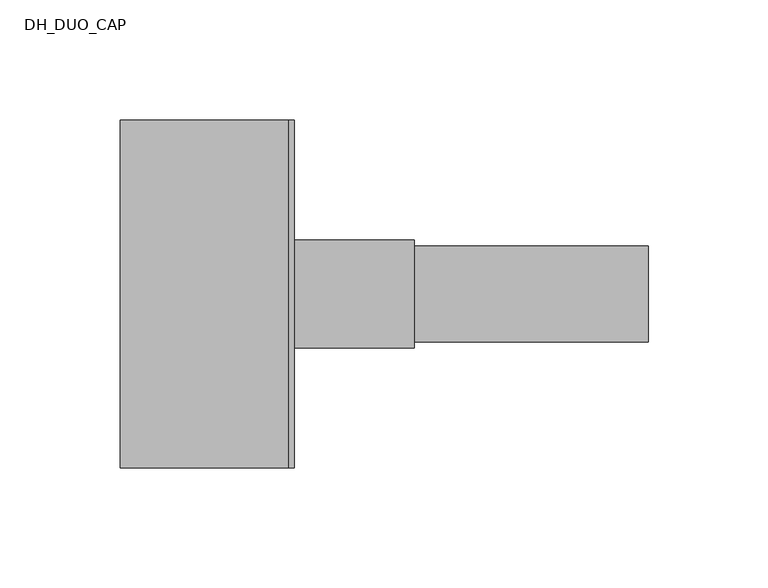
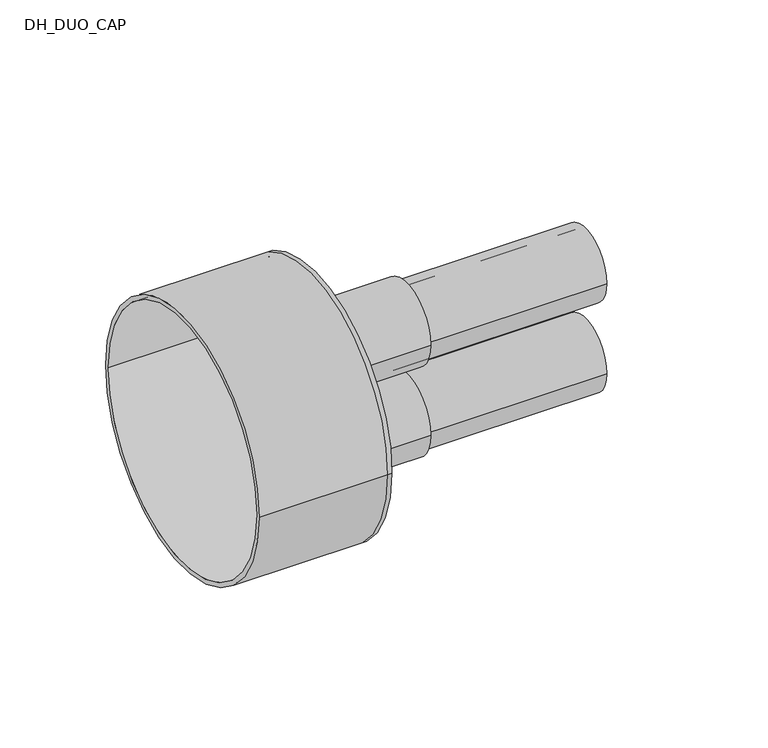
"""IFC4 building model written with IfcOpenShell, lengths in millimetres: pipe fitting geometry, DH_DUO_CAP : INSULPEX DUO + 11 Heating - Rubber Cap."""

from ifc_helpers import new_model, si_unit, point, frame, frame_2d, origin, place, context, project, spatial, polyline, circle_curve, trimmed, segment, composite_curve, outline, extrude, source, transform, mapped, element, save
from ifc_brep_helpers import plane_surface, cylinder_surface, revolved_surface, advanced_brep


def dh_duo_cap_98e0b925(model_context):
    return source(origin(), model_context, "Body", "SolidModel", [
        extrude(outline(composite_curve([segment(trimmed(circle_curve(frame_2d((0.0, -26.0)), 20.0), [point((-20.0, -26.0))], [point((20.0, -26.0))], False, "CARTESIAN"), True, "CONTINUOUS"), segment(trimmed(circle_curve(frame_2d((0.0, -26.0)), 20.0), [point((20.0, -26.0))], [point((-20.0, -26.0))], False, "CARTESIAN"), True, "CONTINUOUS")], self_intersect=False), holes=[composite_curve([segment(trimmed(circle_curve(frame_2d((0.0, -26.0)), 16.3), [point((-16.3, -26.0))], [point((16.3, -26.0))], True, "CARTESIAN"), True, "CONTINUOUS"), segment(trimmed(circle_curve(frame_2d((0.0, -26.0)), 16.3), [point((16.3, -26.0))], [point((-16.3, -26.0))], True, "CARTESIAN"), True, "CONTINUOUS")], self_intersect=False)]), frame((0.0, 0.0, 0.0), z_axis=(1.0, 0.0, 0.0), x_axis=(0.0, 1.0, 0.0)), (0.0, 0.0, 1.0), 150.0),
        extrude(outline(composite_curve([segment(trimmed(circle_curve(frame_2d((0.0, 26.0)), 20.0), [point((-20.0, 26.0))], [point((20.0, 26.0))], False, "CARTESIAN"), True, "CONTINUOUS"), segment(trimmed(circle_curve(frame_2d((0.0, 26.0)), 20.0), [point((20.0, 26.0))], [point((-20.0, 26.0))], False, "CARTESIAN"), True, "CONTINUOUS")], self_intersect=False), holes=[composite_curve([segment(trimmed(circle_curve(frame_2d((0.0, 26.0)), 16.3), [point((-16.3, 26.0))], [point((16.3, 26.0))], True, "CARTESIAN"), True, "CONTINUOUS"), segment(trimmed(circle_curve(frame_2d((0.0, 26.0)), 16.3), [point((16.3, 26.0))], [point((-16.3, 26.0))], True, "CARTESIAN"), True, "CONTINUOUS")], self_intersect=False)]), frame((0.0, 0.0, 0.0), z_axis=(1.0, 0.0, 0.0), x_axis=(0.0, 1.0, 0.0)), (0.0, 0.0, 1.0), 150.0),
        advanced_brep(
        [(-70.0, -72.5, 0.0), (-70.0, 72.5, 0.0), (-70.0, -70.0, 0.0), (-70.0, 70.0, 0.0), (0.0, -70.0, 0.0), (0.0, 70.0, 0.0), (0.0, -72.5, 0.0), (0.0, 72.5, 0.0), (0.0, 20.0, 26.0), (0.0, -20.0, 26.0), (0.0, 20.0, -26.0), (0.0, -20.0, -26.0), (2.5, -72.5, 0.0), (2.5, 72.5, 0.0), (2.5, -20.0, 26.0), (2.5, 20.0, 26.0), (2.5, -20.0, -26.0), (2.5, 20.0, -26.0)],
        [
            (0, 1, circle_curve(frame((-70.0, 0.0, 0.0), z_axis=(-1.0, 0.0, 0.0), x_axis=(0.0, 1.0, 0.0)), 72.5)),
            (1, 0, circle_curve(frame((-70.0, 0.0, 0.0), z_axis=(-1.0, 0.0, 0.0), x_axis=(0.0, 1.0, 0.0)), 72.5)),
            (2, 3, circle_curve(frame((-70.0, 0.0, 0.0), z_axis=(1.0, 0.0, 0.0), x_axis=(0.0, 1.0, 0.0)), 70.0)),
            (3, 2, circle_curve(frame((-70.0, 0.0, 0.0), z_axis=(1.0, 0.0, 0.0), x_axis=(0.0, 1.0, 0.0)), 70.0)),
            (2, 4),
            (4, 5, circle_curve(frame((0.0, 0.0, 0.0), z_axis=(1.0, 0.0, 0.0), x_axis=(0.0, 1.0, 0.0)), 70.0)),
            (5, 3),
            (5, 4, circle_curve(frame((0.0, 0.0, 0.0), z_axis=(1.0, 0.0, 0.0), x_axis=(0.0, 1.0, 0.0)), 70.0)),
            (0, 6),
            (6, 7, circle_curve(frame((0.0, 0.0, 0.0), z_axis=(-1.0, 0.0, 0.0), x_axis=(0.0, 1.0, 0.0)), 72.5)),
            (7, 1),
            (7, 6, circle_curve(frame((0.0, 0.0, 0.0), z_axis=(-1.0, 0.0, 0.0), x_axis=(0.0, 1.0, 0.0)), 72.5)),
            (8, 9, circle_curve(frame((0.0, 0.0, 26.0), z_axis=(1.0, 0.0, 0.0), x_axis=(0.0, 1.0, 0.0)), 20.0)),
            (9, 8, circle_curve(frame((0.0, 0.0, 26.0), z_axis=(1.0, 0.0, 0.0), x_axis=(0.0, 1.0, 0.0)), 20.0)),
            (10, 11, circle_curve(frame((0.0, 0.0, -26.0), z_axis=(1.0, 0.0, 0.0), x_axis=(0.0, 1.0, 0.0)), 20.0)),
            (11, 10, circle_curve(frame((0.0, 0.0, -26.0), z_axis=(1.0, 0.0, 0.0), x_axis=(0.0, 1.0, 0.0)), 20.0)),
            (12, 13, circle_curve(frame((2.5, 0.0, 0.0), z_axis=(1.0, 0.0, 0.0), x_axis=(0.0, 1.0, 0.0)), 72.5)),
            (13, 12, circle_curve(frame((2.5, 0.0, 0.0), z_axis=(1.0, 0.0, 0.0), x_axis=(0.0, 1.0, 0.0)), 72.5)),
            (14, 15, circle_curve(frame((2.5, 0.0, 26.0), z_axis=(-1.0, 0.0, 0.0), x_axis=(0.0, 1.0, 0.0)), 20.0)),
            (15, 14, circle_curve(frame((2.5, 0.0, 26.0), z_axis=(-1.0, 0.0, 0.0), x_axis=(0.0, 1.0, 0.0)), 20.0)),
            (16, 17, circle_curve(frame((2.5, 0.0, -26.0), z_axis=(-1.0, 0.0, 0.0), x_axis=(0.0, 1.0, 0.0)), 20.0)),
            (17, 16, circle_curve(frame((2.5, 0.0, -26.0), z_axis=(-1.0, 0.0, 0.0), x_axis=(0.0, 1.0, 0.0)), 20.0)),
            (13, 7),
            (6, 12),
            (8, 15),
            (14, 9),
            (10, 17),
            (16, 11),
        ],
        [
            plane_surface(frame((-70.0, 0.0, 0.0), z_axis=(-1.0, 0.0, 0.0), x_axis=(0.0, 0.0, 1.0))),
            revolved_surface(polyline([(0.0, 70.0, 0.0), (-70.0, 70.0, 0.0)]), (-70.0, 0.0, 0.0), (1.0, 0.0, 0.0)),
            cylinder_surface(frame((-70.0, 0.0, 0.0), z_axis=(-1.0, 0.0, 0.0), x_axis=(0.0, 1.0, 0.0)), 72.5),
            plane_surface(frame((0.0, 0.0, 0.0), z_axis=(-1.0, 0.0, 0.0), x_axis=(0.0, 0.0, 1.0))),
            plane_surface(frame((2.5, 0.0, 0.0), z_axis=(1.0, 0.0, 0.0), x_axis=(0.0, 0.0, 1.0))),
            cylinder_surface(frame((0.0, 0.0, 0.0), z_axis=(-1.0, 0.0, 0.0), x_axis=(0.0, 1.0, 0.0)), 72.5),
            revolved_surface(polyline([(0.0, 20.0, 26.0), (2.5, 20.0, 26.0)]), (0.0, 0.0, 26.0), (-1.0, 0.0, 0.0)),
            revolved_surface(polyline([(0.0, 20.0, -26.0), (2.5, 20.0, -26.0)]), (0.0, 0.0, -26.0), (-1.0, 0.0, 0.0)),
        ],
        [
            (0, [[1, 2], [3, 4]]),
            (1, [[-3, 5, 6, 7]]),
            (1, [[-4, -7, 8, -5]]),
            (2, [[-1, 9, 10, 11]]),
            (2, [[-2, -11, 12, -9]]),
            (3, [[-6, -8], [13, 14], [15, 16]]),
            (4, [[17, 18], [19, 20], [21, 22]]),
            (5, [[-18, 23, -10, 24]]),
            (5, [[-17, -24, -12, -23]]),
            (6, [[25, -19, 26, -13]]),
            (6, [[-25, -14, -26, -20]]),
            (7, [[27, -21, 28, -15]]),
            (7, [[-27, -16, -28, -22]]),
        ],
    ),
        extrude(outline(composite_curve([segment(trimmed(circle_curve(frame_2d((0.0, -26.0)), 22.5), [point((-22.5, -26.0))], [point((22.5, -26.0))], False, "CARTESIAN"), True, "CONTINUOUS"), segment(trimmed(circle_curve(frame_2d((0.0, -26.0)), 22.5), [point((22.5, -26.0))], [point((-22.5, -26.0))], False, "CARTESIAN"), True, "CONTINUOUS")], self_intersect=False), holes=[composite_curve([segment(trimmed(circle_curve(frame_2d((0.0, -26.0)), 20.0), [point((-20.0, -26.0))], [point((20.0, -26.0))], True, "CARTESIAN"), True, "CONTINUOUS"), segment(trimmed(circle_curve(frame_2d((0.0, -26.0)), 20.0), [point((20.0, -26.0))], [point((-20.0, -26.0))], True, "CARTESIAN"), True, "CONTINUOUS")], self_intersect=False)]), frame((2.5, 0.0, 0.0), z_axis=(1.0, 0.0, 0.0), x_axis=(0.0, 1.0, 0.0)), (0.0, 0.0, 1.0), 50.0),
        extrude(outline(composite_curve([segment(trimmed(circle_curve(frame_2d((0.0, 26.0)), 22.5), [point((-22.5, 26.0))], [point((22.5, 26.0))], False, "CARTESIAN"), True, "CONTINUOUS"), segment(trimmed(circle_curve(frame_2d((0.0, 26.0)), 22.5), [point((22.5, 26.0))], [point((-22.5, 26.0))], False, "CARTESIAN"), True, "CONTINUOUS")], self_intersect=False), holes=[composite_curve([segment(trimmed(circle_curve(frame_2d((0.0, 26.0)), 20.0), [point((-20.0, 26.0))], [point((20.0, 26.0))], True, "CARTESIAN"), True, "CONTINUOUS"), segment(trimmed(circle_curve(frame_2d((0.0, 26.0)), 20.0), [point((20.0, 26.0))], [point((-20.0, 26.0))], True, "CARTESIAN"), True, "CONTINUOUS")], self_intersect=False)]), frame((2.5, 0.0, 0.0), z_axis=(1.0, 0.0, 0.0), x_axis=(0.0, 1.0, 0.0)), (0.0, 0.0, 1.0), 50.0),
    ])


if __name__ == "__main__":
    model = new_model("IFC4")
    model_context = context("Model", 3, world=origin())
    ifc_project = project(units=[si_unit("LENGTHUNIT", "METRE", prefix="MILLI")], contexts=[model_context])
    site = spatial("IfcSite", under=ifc_project)
    building = spatial("IfcBuilding", under=site)
    placement = place(None, origin())
    dh_duo_cap_shape = dh_duo_cap_98e0b925(model_context)
    element("IfcPipeFitting", 1, ObjectType="DH_DUO_CAP : INSULPEX DUO + 11 Heating - Rubber Cap", at=placement, inside=building, context=model_context, shape_type="MappedRepresentation", body=[
        mapped(dh_duo_cap_shape, transform((0.0, 0.0, 0.0), x_axis=(1.0, 0.0, 0.0), y_axis=(0.0, 1.0, 0.0), z_axis=(0.0, 0.0, 1.0))),
    ])
    save(model, "model.ifc")
